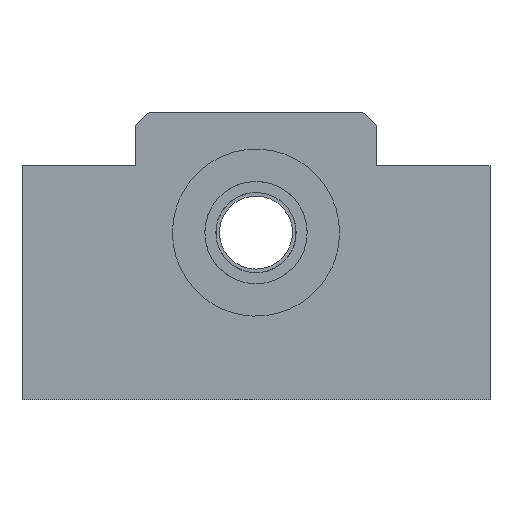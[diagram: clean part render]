
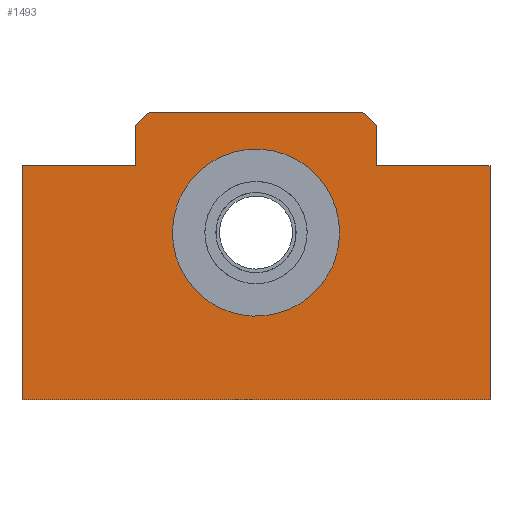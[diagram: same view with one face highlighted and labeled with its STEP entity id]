
A CAD part, left-side view. The second image highlights one B-rep face of the part: STEP entity #1493.
In plain terms, the highlighted planar face has unit normal (-1, 0, 0).
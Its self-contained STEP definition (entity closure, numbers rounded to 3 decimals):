
#886=CARTESIAN_POINT('Line Origine',(-24.,-18.,13.)) ;
#890=CARTESIAN_POINT('Vertex',(-24.,-18.,16.)) ;
#892=CARTESIAN_POINT('Vertex',(-24.,-18.,10.)) ;
#917=CARTESIAN_POINT('Line Origine',(-24.,-26.5,10.)) ;
#921=CARTESIAN_POINT('Vertex',(-24.,-35.,10.)) ;
#1001=CARTESIAN_POINT('Line Origine',(-24.,-35.,-7.5)) ;
#1005=CARTESIAN_POINT('Vertex',(-24.,-35.,-25.)) ;
#1025=CARTESIAN_POINT('Line Origine',(-24.,0.,-25.)) ;
#1029=CARTESIAN_POINT('Vertex',(-24.,35.,-25.)) ;
#1169=CARTESIAN_POINT('Line Origine',(-24.,35.,-7.5)) ;
#1173=CARTESIAN_POINT('Vertex',(-24.,35.,10.)) ;
#1188=CARTESIAN_POINT('Line Origine',(-24.,26.5,10.)) ;
#1192=CARTESIAN_POINT('Vertex',(-24.,18.,10.)) ;
#1272=CARTESIAN_POINT('Line Origine',(-24.,18.,13.)) ;
#1276=CARTESIAN_POINT('Vertex',(-24.,18.,16.)) ;
#1300=CARTESIAN_POINT('Vertex',(-24.,16.,18.)) ;
#1303=CARTESIAN_POINT('Line Origine',(-24.,17.,17.)) ;
#1320=CARTESIAN_POINT('Line Origine',(-24.,0.,18.)) ;
#1324=CARTESIAN_POINT('Vertex',(-24.,-16.,18.)) ;
#1344=CARTESIAN_POINT('Line Origine',(-24.,-17.,17.)) ;
#1416=CARTESIAN_POINT('Axis2P3D Location',(-24.,0.,0.)) ;
#1434=CARTESIAN_POINT('Control Point',(-24.,-10.97,-5.993)) ;
#1435=CARTESIAN_POINT('Control Point',(-24.,-10.389,-7.057)) ;
#1436=CARTESIAN_POINT('Control Point',(-24.,-9.678,-8.05)) ;
#1437=CARTESIAN_POINT('Control Point',(-24.,-8.85,-8.953)) ;
#1438=CARTESIAN_POINT('Control Point',(-24.,-6.992,-10.538)) ;
#1439=CARTESIAN_POINT('Control Point',(-24.,-4.809,-11.634)) ;
#1440=CARTESIAN_POINT('Control Point',(-24.,-3.656,-12.046)) ;
#1441=CARTESIAN_POINT('Control Point',(-24.,-1.273,-12.583)) ;
#1442=CARTESIAN_POINT('Control Point',(-24.,1.169,-12.534)) ;
#1443=CARTESIAN_POINT('Control Point',(-24.,2.381,-12.362)) ;
#1444=CARTESIAN_POINT('Control Point',(-24.,4.739,-11.725)) ;
#1445=CARTESIAN_POINT('Control Point',(-24.,6.877,-10.544)) ;
#1446=CARTESIAN_POINT('Control Point',(-24.,7.869,-9.826)) ;
#1447=CARTESIAN_POINT('Control Point',(-24.,9.659,-8.164)) ;
#1448=CARTESIAN_POINT('Control Point',(-24.,11.,-6.122)) ;
#1449=CARTESIAN_POINT('Control Point',(-24.,11.543,-5.024)) ;
#1450=CARTESIAN_POINT('Control Point',(-24.,12.351,-2.719)) ;
#1451=CARTESIAN_POINT('Control Point',(-24.,12.585,-0.288)) ;
#1452=CARTESIAN_POINT('Control Point',(-24.,12.554,0.936)) ;
#1453=CARTESIAN_POINT('Control Point',(-24.,12.288,2.721)) ;
#1454=CARTESIAN_POINT('Control Point',(-24.,11.713,4.421)) ;
#1455=CARTESIAN_POINT('Control Point',(-24.,11.496,4.96)) ;
#1456=CARTESIAN_POINT('Control Point',(-24.,11.248,5.484)) ;
#1457=CARTESIAN_POINT('Control Point',(-24.,10.97,5.993)) ;
#1458=CARTESIAN_POINT('Vertex',(-24.,-10.97,-5.993)) ;
#1460=CARTESIAN_POINT('Vertex',(-24.,10.97,5.993)) ;
#1464=CARTESIAN_POINT('Control Point',(-24.,10.97,5.993)) ;
#1465=CARTESIAN_POINT('Control Point',(-24.,10.389,7.057)) ;
#1466=CARTESIAN_POINT('Control Point',(-24.,9.678,8.05)) ;
#1467=CARTESIAN_POINT('Control Point',(-24.,8.85,8.953)) ;
#1468=CARTESIAN_POINT('Control Point',(-24.,6.992,10.538)) ;
#1469=CARTESIAN_POINT('Control Point',(-24.,4.809,11.634)) ;
#1470=CARTESIAN_POINT('Control Point',(-24.,3.656,12.046)) ;
#1471=CARTESIAN_POINT('Control Point',(-24.,1.273,12.583)) ;
#1472=CARTESIAN_POINT('Control Point',(-24.,-1.169,12.534)) ;
#1473=CARTESIAN_POINT('Control Point',(-24.,-2.381,12.362)) ;
#1474=CARTESIAN_POINT('Control Point',(-24.,-4.739,11.725)) ;
#1475=CARTESIAN_POINT('Control Point',(-24.,-6.877,10.544)) ;
#1476=CARTESIAN_POINT('Control Point',(-24.,-7.869,9.826)) ;
#1477=CARTESIAN_POINT('Control Point',(-24.,-9.659,8.164)) ;
#1478=CARTESIAN_POINT('Control Point',(-24.,-11.,6.122)) ;
#1479=CARTESIAN_POINT('Control Point',(-24.,-11.543,5.024)) ;
#1480=CARTESIAN_POINT('Control Point',(-24.,-12.351,2.719)) ;
#1481=CARTESIAN_POINT('Control Point',(-24.,-12.585,0.288)) ;
#1482=CARTESIAN_POINT('Control Point',(-24.,-12.554,-0.936)) ;
#1483=CARTESIAN_POINT('Control Point',(-24.,-12.288,-2.721)) ;
#1484=CARTESIAN_POINT('Control Point',(-24.,-11.713,-4.421)) ;
#1485=CARTESIAN_POINT('Control Point',(-24.,-11.496,-4.96)) ;
#1486=CARTESIAN_POINT('Control Point',(-24.,-11.248,-5.484)) ;
#1487=CARTESIAN_POINT('Control Point',(-24.,-10.97,-5.993)) ;
#887=DIRECTION('Vector Direction',(0.,0.,1.)) ;
#918=DIRECTION('Vector Direction',(0.,1.,0.)) ;
#1002=DIRECTION('Vector Direction',(0.,0.,1.)) ;
#1026=DIRECTION('Vector Direction',(0.,-1.,0.)) ;
#1170=DIRECTION('Vector Direction',(0.,0.,-1.)) ;
#1189=DIRECTION('Vector Direction',(0.,1.,0.)) ;
#1273=DIRECTION('Vector Direction',(0.,0.,-1.)) ;
#1304=DIRECTION('Vector Direction',(0.,-0.707,0.707)) ;
#1321=DIRECTION('Vector Direction',(0.,1.,0.)) ;
#1345=DIRECTION('Vector Direction',(0.,-0.707,-0.707)) ;
#1417=DIRECTION('Axis2P3D Direction',(1.,0.,0.)) ;
#1418=DIRECTION('Axis2P3D XDirection',(0.,1.,0.)) ;
#1419=AXIS2_PLACEMENT_3D('Plane Axis2P3D',#1416,#1417,#1418) ;
#1422=ORIENTED_EDGE('',*,*,#1348,.F.) ;
#1423=ORIENTED_EDGE('',*,*,#1326,.F.) ;
#1424=ORIENTED_EDGE('',*,*,#1307,.F.) ;
#1425=ORIENTED_EDGE('',*,*,#1278,.F.) ;
#1426=ORIENTED_EDGE('',*,*,#1194,.F.) ;
#1427=ORIENTED_EDGE('',*,*,#1175,.F.) ;
#1428=ORIENTED_EDGE('',*,*,#1031,.F.) ;
#1429=ORIENTED_EDGE('',*,*,#1007,.F.) ;
#1430=ORIENTED_EDGE('',*,*,#923,.F.) ;
#1431=ORIENTED_EDGE('',*,*,#894,.F.) ;
#1490=ORIENTED_EDGE('',*,*,#1462,.T.) ;
#1491=ORIENTED_EDGE('',*,*,#1488,.T.) ;
#1492=FACE_BOUND('',#1489,.T.) ;
#888=VECTOR('Line Direction',#887,1.) ;
#919=VECTOR('Line Direction',#918,1.) ;
#1003=VECTOR('Line Direction',#1002,1.) ;
#1027=VECTOR('Line Direction',#1026,1.) ;
#1171=VECTOR('Line Direction',#1170,1.) ;
#1190=VECTOR('Line Direction',#1189,1.) ;
#1274=VECTOR('Line Direction',#1273,1.) ;
#1305=VECTOR('Line Direction',#1304,1.) ;
#1322=VECTOR('Line Direction',#1321,1.) ;
#1346=VECTOR('Line Direction',#1345,1.) ;
#1493=ADVANCED_FACE('AK12(H)',(#1432,#1492),#1420,.F.) ;
#1433=B_SPLINE_CURVE_WITH_KNOTS('',5,(#1434,#1435,#1436,#1437,#1438,#1439,#1440,#1441,#1442,#1443,#1444,#1445,#1446,#1447,#1448,#1449,#1450,#1451,#1452,#1453,#1454,#1455,#1456,#1457),.UNSPECIFIED.,.F.,.U.,(6,3,3,3,3,3,3,6),(0.,8.573,17.146,25.719,34.293,42.866,51.439,55.536),.UNSPECIFIED.) ;
#1463=B_SPLINE_CURVE_WITH_KNOTS('',5,(#1464,#1465,#1466,#1467,#1468,#1469,#1470,#1471,#1472,#1473,#1474,#1475,#1476,#1477,#1478,#1479,#1480,#1481,#1482,#1483,#1484,#1485,#1486,#1487),.UNSPECIFIED.,.F.,.U.,(6,3,3,3,3,3,3,6),(0.,8.573,17.146,25.719,34.293,42.866,51.439,55.536),.UNSPECIFIED.) ;
#894=EDGE_CURVE('',#891,#893,#889,.F.) ;
#923=EDGE_CURVE('',#893,#922,#920,.F.) ;
#1007=EDGE_CURVE('',#922,#1006,#1004,.F.) ;
#1031=EDGE_CURVE('',#1006,#1030,#1028,.F.) ;
#1175=EDGE_CURVE('',#1030,#1174,#1172,.F.) ;
#1194=EDGE_CURVE('',#1174,#1193,#1191,.F.) ;
#1278=EDGE_CURVE('',#1193,#1277,#1275,.F.) ;
#1307=EDGE_CURVE('',#1277,#1301,#1306,.T.) ;
#1326=EDGE_CURVE('',#1301,#1325,#1323,.F.) ;
#1348=EDGE_CURVE('',#1325,#891,#1347,.T.) ;
#1462=EDGE_CURVE('',#1459,#1461,#1433,.T.) ;
#1488=EDGE_CURVE('',#1461,#1459,#1463,.T.) ;
#1421=EDGE_LOOP('',(#1422,#1423,#1424,#1425,#1426,#1427,#1428,#1429,#1430,#1431)) ;
#1489=EDGE_LOOP('',(#1490,#1491)) ;
#1432=FACE_OUTER_BOUND('',#1421,.T.) ;
#889=LINE('Line',#886,#888) ;
#920=LINE('Line',#917,#919) ;
#1004=LINE('Line',#1001,#1003) ;
#1028=LINE('Line',#1025,#1027) ;
#1172=LINE('Line',#1169,#1171) ;
#1191=LINE('Line',#1188,#1190) ;
#1275=LINE('Line',#1272,#1274) ;
#1306=LINE('Line',#1303,#1305) ;
#1323=LINE('Line',#1320,#1322) ;
#1347=LINE('Line',#1344,#1346) ;
#1420=PLANE('Plane',#1419) ;
#891=VERTEX_POINT('',#890) ;
#893=VERTEX_POINT('',#892) ;
#922=VERTEX_POINT('',#921) ;
#1006=VERTEX_POINT('',#1005) ;
#1030=VERTEX_POINT('',#1029) ;
#1174=VERTEX_POINT('',#1173) ;
#1193=VERTEX_POINT('',#1192) ;
#1277=VERTEX_POINT('',#1276) ;
#1301=VERTEX_POINT('',#1300) ;
#1325=VERTEX_POINT('',#1324) ;
#1459=VERTEX_POINT('',#1458) ;
#1461=VERTEX_POINT('',#1460) ;
